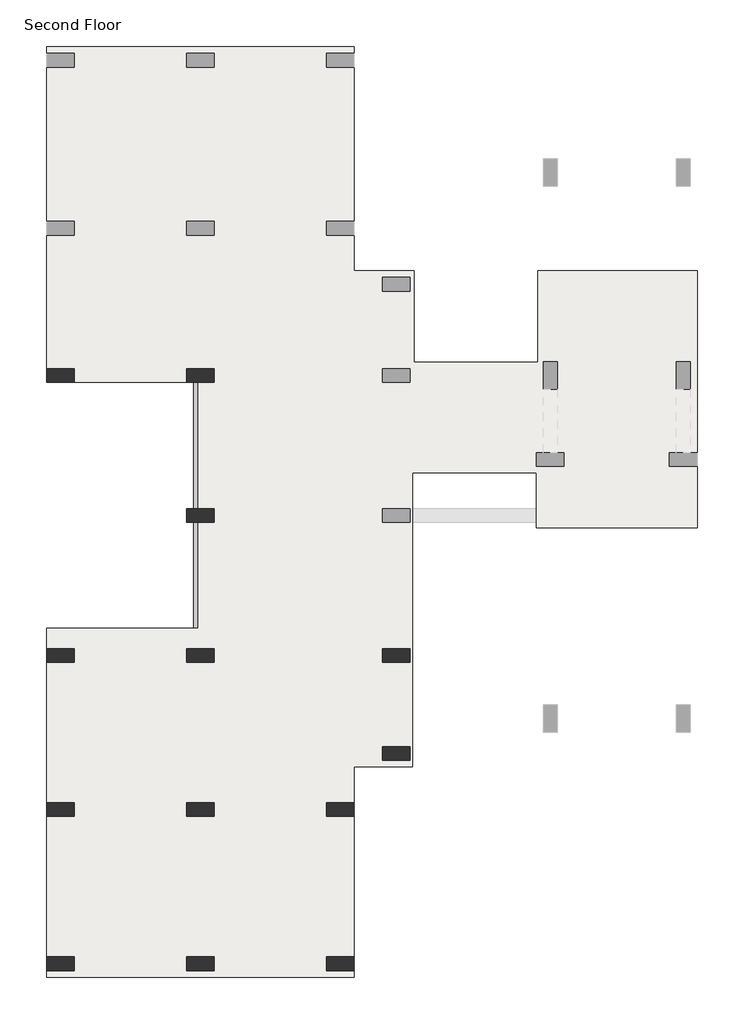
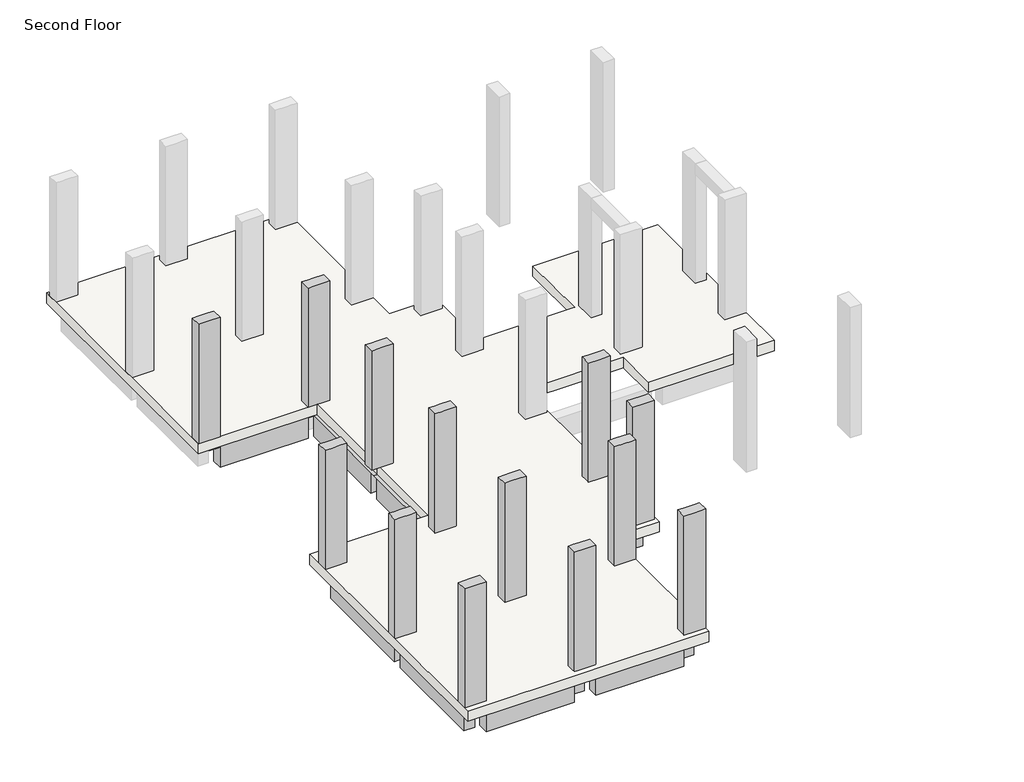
# One storey, part 1 of 2: 17 beams, 13 columns, 1 slab.
"""IFC4 building model written with IfcOpenShell, lengths in millimetres."""

from ifc_helpers import new_model, si_unit, origin, place, context, project, spatial, faceted_brep, element, save

model = new_model("IFC4")

# Units and contexts
model_context = context("Model", 3, world=origin())
ifc_project = project(units=[si_unit("LENGTHUNIT", "METRE", prefix="MILLI")], contexts=[model_context])

# Site, building, storey
site = spatial("IfcSite", under=ifc_project)
building = spatial("IfcBuilding", under=site)
storey = spatial("IfcBuildingStorey", under=building, Name="Second Floor", Elevation=3810.0)

# Beams
placement = place(None, origin())
element("IfcBeam", 1, ObjectType="M_Concrete-Rectangular Beam : 300 x 600mm", at=placement, inside=storey, context=model_context, shape_type="Brep", body=[
    faceted_brep([(-9933.3472303, 7869.016665, 3510.0), (-9933.3472303, 7719.016665, 3510.0), (-9933.3472303, 4821.016665, 3510.0), (-9783.3472303, 4821.016665, 3510.0), (-9783.3472303, 4971.016665, 3510.0), (-9633.3472303, 4971.016665, 3510.0), (-9633.3472303, 7719.016665, 3510.0), (-9633.3472303, 7869.016665, 3510.0), (-9783.3472303, 7869.016665, 3510.0), (-9633.3472303, 7719.016665, 2910.0), (-9633.3472303, 7719.016665, 3505.2), (-9633.3472303, 7869.016665, 3505.2), (-9633.3472303, 4971.016665, 2910.0), (-9933.3472303, 4971.016665, 2910.0), (-9933.3472303, 7719.016665, 2910.0), (-9933.3472303, 7869.016665, 3505.2), (-9933.3472303, 7719.016665, 3505.2), (-9933.3472303, 4971.016665, 3505.2), (-9933.3472303, 4821.016665, 3505.2), (-9783.3472303, 4971.016665, 3505.2), (-9783.3472303, 7869.016665, 3505.2), (-9783.3472303, 4821.016665, 3505.2)], [[[0, 1, 2, 3, 4, 5, 6, 7, 8]], [[9, 10, 11, 7, 6, 5, 12]], [[12, 13, 14, 9]], [[2, 1, 0, 15, 16, 14, 13, 17, 18]], [[5, 4, 19, 17, 13, 12]], [[16, 10, 9, 14]], [[10, 16, 15, 20, 11]], [[17, 19, 21, 18]], [[0, 8, 7, 11, 20, 15]], [[3, 2, 18, 21]], [[4, 3, 21, 19]]]),
])
element("IfcBeam", 2, ObjectType="M_Concrete-Rectangular Beam : 300 x 600mm", at=placement, inside=storey, context=model_context, shape_type="Brep", body=[
    faceted_brep([(-12681.3472303, 8019.016665, 3510.0), (-12681.3472303, 7869.016665, 3510.0), (-12831.3472303, 7869.016665, 3510.0), (-12831.3472303, 7719.016665, 3510.0), (-9933.3472303, 7719.016665, 3510.0), (-9933.3472303, 7869.016665, 3510.0), (-9933.3472303, 8019.016665, 3510.0), (-12531.3472303, 7719.016665, 3505.2), (-12531.3472303, 7719.016665, 2910.0), (-10083.3472303, 7719.016665, 2910.0), (-10083.3472303, 7719.016665, 3505.2), (-9933.3472303, 7719.016665, 3505.2), (-12831.3472303, 7719.016665, 3505.2), (-12531.3472303, 8019.016665, 2910.0), (-10083.3472303, 8019.016665, 2910.0), (-12681.3472303, 8019.016665, 3505.2), (-9933.3472303, 8019.016665, 3505.2), (-10083.3472303, 8019.016665, 3505.2), (-12531.3472303, 8019.016665, 3505.2), (-9933.3472303, 7869.016665, 3505.2), (-12681.3472303, 7869.016665, 3505.2), (-12831.3472303, 7869.016665, 3505.2)], [[[0, 1, 2, 3, 4, 5, 6]], [[7, 8, 9, 10, 11, 4, 3, 12]], [[8, 13, 14, 9]], [[15, 0, 6, 16, 17, 14, 13, 18]], [[6, 5, 4, 11, 19, 16]], [[1, 0, 15, 20]], [[7, 18, 13, 8]], [[18, 7, 12, 21, 20, 15]], [[17, 10, 9, 14]], [[10, 17, 16, 19, 11]], [[3, 2, 21, 12]], [[2, 1, 20, 21]]]),
])
element("IfcBeam", 3, ObjectType="M_Concrete-Rectangular Beam : 300 x 600mm", at=placement, inside=storey, context=model_context, shape_type="Brep", body=[
    faceted_brep([(-9783.3472303, 1623.016665, 3510.0), (-9633.3472303, 1623.016665, 3510.0), (-5666.3472303, 1623.016665, 3510.0), (-5516.3472303, 1623.016665, 3510.0), (-5516.3472303, 1773.016665, 3510.0), (-5666.3472303, 1773.016665, 3510.0), (-5666.3472303, 1923.016665, 3510.0), (-9633.3472303, 1923.016665, 3510.0), (-9783.3472303, 1923.016665, 3510.0), (-9783.3472303, 1773.016665, 3510.0), (-9483.3472303, 1923.016665, 2910.0), (-9483.3472303, 1923.016665, 3505.2), (-9783.3472303, 1923.016665, 3505.2), (-5666.3472303, 1923.016665, 3505.2), (-5816.3472303, 1923.016665, 3505.2), (-5816.3472303, 1923.016665, 2910.0), (-9483.3472303, 1623.016665, 2910.0), (-5816.3472303, 1623.016665, 2910.0), (-9783.3472303, 1623.016665, 3505.2), (-9483.3472303, 1623.016665, 3505.2), (-5816.3472303, 1623.016665, 3505.2), (-5516.3472303, 1623.016665, 3505.2), (-5666.3472303, 1773.016665, 3505.2), (-9783.3472303, 1773.016665, 3505.2), (-5516.3472303, 1773.016665, 3505.2)], [[[0, 1, 2, 3, 4, 5, 6, 7, 8, 9]], [[10, 11, 12, 8, 7, 6, 13, 14, 15]], [[16, 10, 15, 17]], [[3, 2, 1, 0, 18, 19, 16, 17, 20, 21]], [[6, 5, 22, 13]], [[19, 11, 10, 16]], [[11, 19, 18, 23, 12]], [[14, 20, 17, 15]], [[20, 14, 13, 22, 24, 21]], [[0, 9, 8, 12, 23, 18]], [[4, 3, 21, 24]], [[5, 4, 24, 22]]]),
])
element("IfcBeam", 4, ObjectType="M_Concrete-Rectangular Beam : 300 x 600mm", at=placement, inside=storey, context=model_context, shape_type="Brep", body=[
    faceted_brep([(-9933.3472303, 4821.016665, 3510.0), (-9933.3472303, 1923.016665, 3510.0), (-9933.3472303, 1773.016665, 3510.0), (-9783.3472303, 1773.016665, 3510.0), (-9783.3472303, 1923.016665, 3510.0), (-9633.3472303, 1923.016665, 3510.0), (-9633.3472303, 4671.016665, 3510.0), (-9783.3472303, 4671.016665, 3510.0), (-9783.3472303, 4821.016665, 3510.0), (-9633.3472303, 1923.016665, 2910.0), (-9633.3472303, 4671.016665, 2910.0), (-9933.3472303, 1923.016665, 2910.0), (-9933.3472303, 4671.016665, 2910.0), (-9933.3472303, 4821.016665, 3505.2), (-9933.3472303, 4671.016665, 3505.2), (-9933.3472303, 1923.016665, 3505.2), (-9933.3472303, 1773.016665, 3505.2), (-9783.3472303, 4671.016665, 3505.2), (-9783.3472303, 1923.016665, 3505.2), (-9783.3472303, 4821.016665, 3505.2), (-9783.3472303, 1773.016665, 3505.2)], [[[0, 1, 2, 3, 4, 5, 6, 7, 8]], [[6, 5, 9, 10]], [[9, 11, 12, 10]], [[2, 1, 0, 13, 14, 12, 11, 15, 16]], [[7, 6, 10, 12, 14, 17]], [[5, 4, 18, 15, 11, 9]], [[17, 14, 13, 19]], [[15, 18, 20, 16]], [[0, 8, 19, 13]], [[3, 2, 16, 20]], [[8, 7, 17, 19]], [[4, 3, 20, 18]]]),
])
element("IfcBeam", 5, ObjectType="M_Concrete-Rectangular Beam : 300 x 600mm", at=placement, inside=storey, context=model_context, shape_type="Brep", body=[
    faceted_brep([(-5366.3472303, -360.983335, 3510.0), (-5366.3472303, 1773.016665, 3510.0), (-5516.3472303, 1773.016665, 3510.0), (-5516.3472303, 1623.016665, 3510.0), (-5666.3472303, 1623.016665, 3510.0), (-5666.3472303, -210.983335, 3510.0), (-5666.3472303, -360.983335, 3510.0), (-5516.3472303, -360.983335, 3510.0), (-5666.3472303, 1623.016665, 2910.0), (-5666.3472303, -210.983335, 2910.0), (-5666.3472303, -210.983335, 3505.2), (-5666.3472303, -360.983335, 3505.2), (-5366.3472303, 1623.016665, 2910.0), (-5366.3472303, -210.983335, 2910.0), (-5366.3472303, -360.983335, 3505.2), (-5366.3472303, -210.983335, 3505.2), (-5366.3472303, 1623.016665, 3505.2), (-5366.3472303, 1773.016665, 3505.2), (-5516.3472303, 1623.016665, 3505.2), (-5516.3472303, 1773.016665, 3505.2), (-5516.3472303, -360.983335, 3505.2)], [[[0, 1, 2, 3, 4, 5, 6, 7]], [[6, 5, 4, 8, 9, 10, 11]], [[8, 12, 13, 9]], [[1, 0, 14, 15, 13, 12, 16, 17]], [[4, 3, 18, 16, 12, 8]], [[16, 18, 19, 17]], [[15, 10, 9, 13]], [[10, 15, 14, 20, 11]], [[2, 1, 17, 19]], [[0, 7, 6, 11, 20, 14]], [[3, 2, 19, 18]]]),
])
element("IfcBeam", 6, ObjectType="M_Concrete-Rectangular Beam : 300 x 600mm", at=placement, inside=storey, context=model_context, shape_type="Brep", body=[
    faceted_brep([(-6885.3472303, -510.983335, 3510.0), (-6585.3472303, -510.983335, 3510.0), (-5516.3472303, -510.983335, 3510.0), (-5516.3472303, -360.983335, 3510.0), (-5666.3472303, -360.983335, 3510.0), (-5666.3472303, -210.983335, 3510.0), (-6885.3472303, -210.983335, 3510.0), (-6885.3472303, -210.983335, 2910.0), (-5666.3472303, -210.983335, 3505.2), (-5816.3472303, -210.983335, 3505.2), (-5816.3472303, -210.983335, 2910.0), (-6885.3472303, -510.983335, 2910.0), (-5816.3472303, -510.983335, 2910.0), (-6585.3472303, -510.983335, 2910.0), (-5816.3472303, -510.983335, 3505.2), (-5516.3472303, -510.983335, 3505.2), (-5516.3472303, -360.983335, 3505.2), (-5666.3472303, -360.983335, 3505.2)], [[[0, 1, 2, 3, 4, 5, 6]], [[7, 6, 5, 8, 9, 10]], [[11, 7, 10, 12, 13]], [[2, 1, 0, 11, 13, 12, 14, 15]], [[3, 2, 15, 16]], [[0, 6, 7, 11]], [[5, 4, 17, 8]], [[4, 3, 16, 17]], [[9, 14, 12, 10]], [[14, 9, 8, 17, 16, 15]]]),
])
element("IfcBeam", 7, ObjectType="M_Concrete-Rectangular Beam : 300 x 600mm", at=placement, inside=storey, context=model_context, shape_type="Brep", body=[
    faceted_brep([(-6885.3472303, -1579.983335, 3510.0), (-6735.3472303, -1579.983335, 3510.0), (-6585.3472303, -1579.983335, 3510.0), (-6585.3472303, -510.983335, 3510.0), (-6885.3472303, -510.983335, 3510.0), (-6885.3472303, -1429.983335, 3510.0), (-6885.3472303, -510.983335, 2910.0), (-6885.3472303, -1429.983335, 2910.0), (-6885.3472303, -1429.983335, 3505.2), (-6885.3472303, -1579.983335, 3505.2), (-6585.3472303, -510.983335, 2910.0), (-6585.3472303, -1429.983335, 2910.0), (-6585.3472303, -1579.983335, 3505.2), (-6585.3472303, -1429.983335, 3505.2), (-6735.3472303, -1579.983335, 3505.2)], [[[0, 1, 2, 3, 4, 5]], [[0, 5, 4, 6, 7, 8, 9]], [[6, 10, 11, 7]], [[3, 2, 12, 13, 11, 10]], [[2, 1, 0, 9, 14, 12]], [[4, 3, 10, 6]], [[13, 8, 7, 11]], [[8, 13, 12, 14, 9]]]),
])
element("IfcBeam", 8, ObjectType="M_Concrete-Rectangular Beam : 300 x 600mm", at=placement, inside=storey, context=model_context, shape_type="Brep", body=[
    faceted_brep([(-6585.3472303, -4932.983335, 3510.0), (-6585.3472303, -1579.983335, 3510.0), (-6735.3472303, -1579.983335, 3510.0), (-6735.3472303, -1729.983335, 3510.0), (-6885.3472303, -1729.983335, 3510.0), (-6885.3472303, -4782.983335, 3510.0), (-6885.3472303, -4932.983335, 3510.0), (-6735.3472303, -4932.983335, 3510.0), (-6885.3472303, -1729.983335, 2910.0), (-6885.3472303, -4782.983335, 2910.0), (-6885.3472303, -4782.983335, 3505.2), (-6885.3472303, -4932.983335, 3505.2), (-6585.3472303, -1729.983335, 2910.0), (-6585.3472303, -4782.983335, 2910.0), (-6585.3472303, -4932.983335, 3505.2), (-6585.3472303, -4782.983335, 3505.2), (-6585.3472303, -1729.983335, 3505.2), (-6585.3472303, -1579.983335, 3505.2), (-6735.3472303, -1579.983335, 3505.2), (-6735.3472303, -4932.983335, 3505.2), (-6735.3472303, -1729.983335, 3505.2)], [[[0, 1, 2, 3, 4, 5, 6, 7]], [[4, 8, 9, 10, 11, 6, 5]], [[9, 8, 12, 13]], [[1, 0, 14, 15, 13, 12, 16, 17]], [[1, 17, 18, 2]], [[0, 7, 6, 11, 19, 14]], [[4, 3, 20, 16, 12, 8]], [[17, 16, 20, 18]], [[15, 10, 9, 13]], [[10, 15, 14, 19, 11]], [[20, 3, 2, 18]]]),
])
element("IfcBeam", 9, ObjectType="M_Concrete-Rectangular Beam : 300 x 600mm", at=placement, inside=storey, context=model_context, shape_type="Brep", body=[
    faceted_brep([(-9783.3472303, -5082.983335, 3510.0), (-6735.3472303, -5082.983335, 3510.0), (-6735.3472303, -4932.983335, 3510.0), (-6885.3472303, -4932.983335, 3510.0), (-6885.3472303, -4782.983335, 3510.0), (-9633.3472303, -4782.983335, 3510.0), (-9783.3472303, -4782.983335, 3510.0), (-9783.3472303, -4932.983335, 3510.0), (-9483.3472303, -4782.983335, 2910.0), (-9483.3472303, -4782.983335, 3505.2), (-9783.3472303, -4782.983335, 3505.2), (-6885.3472303, -4782.983335, 3505.2), (-7035.3472303, -4782.983335, 3505.2), (-7035.3472303, -4782.983335, 2910.0), (-9483.3472303, -5082.983335, 2910.0), (-7035.3472303, -5082.983335, 2910.0), (-9783.3472303, -5082.983335, 3505.2), (-9483.3472303, -5082.983335, 3505.2), (-7035.3472303, -5082.983335, 3505.2), (-6735.3472303, -5082.983335, 3505.2), (-6885.3472303, -4932.983335, 3505.2), (-9783.3472303, -4932.983335, 3505.2), (-6735.3472303, -4932.983335, 3505.2)], [[[0, 1, 2, 3, 4, 5, 6, 7]], [[8, 9, 10, 6, 5, 4, 11, 12, 13]], [[14, 8, 13, 15]], [[1, 0, 16, 17, 14, 15, 18, 19]], [[4, 3, 20, 11]], [[17, 9, 8, 14]], [[9, 17, 16, 21, 10]], [[12, 18, 15, 13]], [[18, 12, 11, 20, 22, 19]], [[0, 7, 6, 10, 21, 16]], [[2, 1, 19, 22]], [[3, 2, 22, 20]]]),
])
element("IfcBeam", 10, ObjectType="M_Concrete-Rectangular Beam : 300 x 600mm", at=placement, inside=storey, context=model_context, shape_type="Brep", body=[
    faceted_brep([(-9933.3472303, -1579.983335, 3510.0), (-9933.3472303, -1729.983335, 3510.0), (-9933.3472303, -4782.983335, 3510.0), (-9933.3472303, -4932.983335, 3510.0), (-9783.3472303, -4932.983335, 3510.0), (-9783.3472303, -4782.983335, 3510.0), (-9633.3472303, -4782.983335, 3510.0), (-9633.3472303, -1729.983335, 3510.0), (-9633.3472303, -1579.983335, 3510.0), (-9783.3472303, -1579.983335, 3510.0), (-9633.3472303, -4782.983335, 2910.0), (-9633.3472303, -1729.983335, 2910.0), (-9633.3472303, -1729.983335, 3505.2), (-9633.3472303, -1579.983335, 3505.2), (-9933.3472303, -4782.983335, 2910.0), (-9933.3472303, -1729.983335, 2910.0), (-9933.3472303, -1579.983335, 3505.2), (-9933.3472303, -1729.983335, 3505.2), (-9933.3472303, -4782.983335, 3505.2), (-9933.3472303, -4932.983335, 3505.2), (-9783.3472303, -1579.983335, 3505.2), (-9783.3472303, -4932.983335, 3505.2), (-9783.3472303, -4782.983335, 3505.2)], [[[0, 1, 2, 3, 4, 5, 6, 7, 8, 9]], [[8, 7, 6, 10, 11, 12, 13]], [[11, 10, 14, 15]], [[3, 2, 1, 0, 16, 17, 15, 14, 18, 19]], [[0, 9, 8, 13, 20, 16]], [[4, 3, 19, 21]], [[6, 5, 22, 18, 14, 10]], [[5, 4, 21, 22]], [[17, 12, 11, 15]], [[12, 17, 16, 20, 13]], [[18, 22, 21, 19]]]),
])
element("IfcBeam", 11, ObjectType="M_Concrete-Rectangular Beam : 300 x 600mm", at=placement, inside=storey, context=model_context, shape_type="Brep", body=[
    faceted_brep([(-6885.3472303, -1579.983335, 3510.0), (-6885.3472303, -1429.983335, 3510.0), (-9633.3472303, -1429.983335, 3510.0), (-9783.3472303, -1429.983335, 3510.0), (-9783.3472303, -1579.983335, 3510.0), (-9633.3472303, -1579.983335, 3510.0), (-9633.3472303, -1729.983335, 3510.0), (-6885.3472303, -1729.983335, 3510.0), (-6735.3472303, -1729.983335, 3510.0), (-6735.3472303, -1579.983335, 3510.0), (-9633.3472303, -1729.983335, 3505.2), (-9483.3472303, -1729.983335, 3505.2), (-9483.3472303, -1729.983335, 2910.0), (-7035.3472303, -1729.983335, 2910.0), (-7035.3472303, -1729.983335, 3505.2), (-6735.3472303, -1729.983335, 3505.2), (-9483.3472303, -1429.983335, 2910.0), (-7035.3472303, -1429.983335, 2910.0), (-9483.3472303, -1429.983335, 3505.2), (-9783.3472303, -1429.983335, 3505.2), (-6885.3472303, -1429.983335, 3505.2), (-7035.3472303, -1429.983335, 3505.2), (-6885.3472303, -1579.983335, 3505.2), (-9633.3472303, -1579.983335, 3505.2), (-9783.3472303, -1579.983335, 3505.2), (-6735.3472303, -1579.983335, 3505.2)], [[[0, 1, 2, 3, 4, 5, 6, 7, 8, 9]], [[6, 10, 11, 12, 13, 14, 15, 8, 7]], [[12, 16, 17, 13]], [[16, 18, 19, 3, 2, 1, 20, 21, 17]], [[1, 0, 22, 20]], [[6, 5, 23, 10]], [[11, 18, 16, 12]], [[18, 11, 10, 23, 24, 19]], [[21, 14, 13, 17]], [[14, 21, 20, 22, 25, 15]], [[4, 3, 19, 24]], [[9, 8, 15, 25]], [[0, 9, 25, 22]], [[5, 4, 24, 23]]]),
])
element("IfcBeam", 12, ObjectType="M_Concrete-Rectangular Beam : 300 x 600mm", at=placement, inside=storey, context=model_context, shape_type="Brep", body=[
    faceted_brep([(-9933.3472303, 1773.016665, 3510.0), (-9933.3472303, 1623.016665, 3510.0), (-9933.3472303, -1429.983335, 3510.0), (-9933.3472303, -1579.983335, 3510.0), (-9783.3472303, -1579.983335, 3510.0), (-9783.3472303, -1429.983335, 3510.0), (-9633.3472303, -1429.983335, 3510.0), (-9633.3472303, 1623.016665, 3510.0), (-9783.3472303, 1623.016665, 3510.0), (-9783.3472303, 1773.016665, 3510.0), (-9633.3472303, -1429.983335, 2910.0), (-9633.3472303, 1623.016665, 2910.0), (-9933.3472303, -1429.983335, 2910.0), (-9933.3472303, 1623.016665, 2910.0), (-9933.3472303, 1773.016665, 3505.2), (-9933.3472303, 1623.016665, 3505.2), (-9933.3472303, -1429.983335, 3505.2), (-9933.3472303, -1579.983335, 3505.2), (-9783.3472303, 1773.016665, 3505.2), (-9783.3472303, -1579.983335, 3505.2), (-9783.3472303, 1623.016665, 3505.2), (-9783.3472303, -1429.983335, 3505.2)], [[[0, 1, 2, 3, 4, 5, 6, 7, 8, 9]], [[7, 6, 10, 11]], [[11, 10, 12, 13]], [[3, 2, 1, 0, 14, 15, 13, 12, 16, 17]], [[0, 9, 18, 14]], [[4, 3, 17, 19]], [[8, 7, 11, 13, 15, 20]], [[9, 8, 20, 18]], [[6, 5, 21, 16, 12, 10]], [[5, 4, 19, 21]], [[20, 15, 14, 18]], [[16, 21, 19, 17]]]),
])
element("IfcBeam", 13, ObjectType="M_Concrete-Rectangular Beam : 300 x 600mm", at=placement, inside=storey, context=model_context, shape_type="Brep", body=[
    faceted_brep([(-12831.3472303, -5082.983335, 3510.0), (-9783.3472303, -5082.983335, 3510.0), (-9783.3472303, -4932.983335, 3510.0), (-9933.3472303, -4932.983335, 3510.0), (-9933.3472303, -4782.983335, 3510.0), (-12681.3472303, -4782.983335, 3510.0), (-12831.3472303, -4782.983335, 3510.0), (-12831.3472303, -4932.983335, 3510.0), (-12531.3472303, -4782.983335, 2910.0), (-12531.3472303, -4782.983335, 3505.2), (-12831.3472303, -4782.983335, 3505.2), (-9933.3472303, -4782.983335, 3505.2), (-10083.3472303, -4782.983335, 3505.2), (-10083.3472303, -4782.983335, 2910.0), (-12531.3472303, -5082.983335, 2910.0), (-10083.3472303, -5082.983335, 2910.0), (-12831.3472303, -5082.983335, 3505.2), (-12531.3472303, -5082.983335, 3505.2), (-10083.3472303, -5082.983335, 3505.2), (-9783.3472303, -5082.983335, 3505.2), (-9933.3472303, -4932.983335, 3505.2), (-12831.3472303, -4932.983335, 3505.2), (-9783.3472303, -4932.983335, 3505.2)], [[[0, 1, 2, 3, 4, 5, 6, 7]], [[8, 9, 10, 6, 5, 4, 11, 12, 13]], [[14, 8, 13, 15]], [[1, 0, 16, 17, 14, 15, 18, 19]], [[4, 3, 20, 11]], [[17, 9, 8, 14]], [[9, 17, 16, 21, 10]], [[12, 18, 15, 13]], [[18, 12, 11, 20, 22, 19]], [[0, 7, 6, 10, 21, 16]], [[2, 1, 19, 22]], [[3, 2, 22, 20]]]),
])
element("IfcBeam", 14, ObjectType="M_Concrete-Rectangular Beam : 300 x 600mm", at=placement, inside=storey, context=model_context, shape_type="Brep", body=[
    faceted_brep([(-12981.3472303, -1579.983335, 3510.0), (-12981.3472303, -4932.983335, 3510.0), (-12831.3472303, -4932.983335, 3510.0), (-12831.3472303, -4782.983335, 3510.0), (-12681.3472303, -4782.983335, 3510.0), (-12681.3472303, -1729.983335, 3510.0), (-12681.3472303, -1579.983335, 3510.0), (-12831.3472303, -1579.983335, 3510.0), (-12681.3472303, -4782.983335, 2910.0), (-12681.3472303, -1729.983335, 2910.0), (-12681.3472303, -1729.983335, 3505.2), (-12681.3472303, -1579.983335, 3505.2), (-12981.3472303, -4782.983335, 2910.0), (-12981.3472303, -1729.983335, 2910.0), (-12981.3472303, -1579.983335, 3505.2), (-12981.3472303, -1729.983335, 3505.2), (-12981.3472303, -4782.983335, 3505.2), (-12981.3472303, -4932.983335, 3505.2), (-12831.3472303, -1579.983335, 3505.2), (-12831.3472303, -4932.983335, 3505.2), (-12831.3472303, -4782.983335, 3505.2)], [[[0, 1, 2, 3, 4, 5, 6, 7]], [[6, 5, 4, 8, 9, 10, 11]], [[9, 8, 12, 13]], [[1, 0, 14, 15, 13, 12, 16, 17]], [[0, 7, 6, 11, 18, 14]], [[2, 1, 17, 19]], [[4, 3, 20, 16, 12, 8]], [[3, 2, 19, 20]], [[15, 10, 9, 13]], [[10, 15, 14, 18, 11]], [[16, 20, 19, 17]]]),
])
element("IfcBeam", 15, ObjectType="M_Concrete-Rectangular Beam : 300 x 600mm", at=placement, inside=storey, context=model_context, shape_type="Brep", body=[
    faceted_brep([(-12681.3472303, -1579.983335, 3510.0), (-12681.3472303, -1729.983335, 3510.0), (-9933.3472303, -1729.983335, 3510.0), (-9933.3472303, -1579.983335, 3510.0), (-9933.3472303, -1429.983335, 3510.0), (-12681.3472303, -1429.983335, 3510.0), (-12831.3472303, -1429.983335, 3510.0), (-12831.3472303, -1579.983335, 3510.0), (-12681.3472303, -1729.983335, 3505.2), (-12531.3472303, -1729.983335, 3505.2), (-12531.3472303, -1729.983335, 2910.0), (-10083.3472303, -1729.983335, 2910.0), (-10083.3472303, -1729.983335, 3505.2), (-9933.3472303, -1729.983335, 3505.2), (-12531.3472303, -1429.983335, 2910.0), (-10083.3472303, -1429.983335, 2910.0), (-12531.3472303, -1429.983335, 3505.2), (-12831.3472303, -1429.983335, 3505.2), (-9933.3472303, -1429.983335, 3505.2), (-10083.3472303, -1429.983335, 3505.2), (-9933.3472303, -1579.983335, 3505.2), (-12681.3472303, -1579.983335, 3505.2), (-12831.3472303, -1579.983335, 3505.2)], [[[0, 1, 2, 3, 4, 5, 6, 7]], [[1, 8, 9, 10, 11, 12, 13, 2]], [[10, 14, 15, 11]], [[14, 16, 17, 6, 5, 4, 18, 19, 15]], [[4, 3, 2, 13, 20, 18]], [[1, 0, 21, 8]], [[9, 16, 14, 10]], [[16, 9, 8, 21, 22, 17]], [[19, 12, 11, 15]], [[12, 19, 18, 20, 13]], [[7, 6, 17, 22]], [[0, 7, 22, 21]]]),
])
element("IfcBeam", 16, ObjectType="M_Concrete-Rectangular Beam : 300 x 600mm", at=placement, inside=storey, context=model_context, shape_type="Brep", body=[
    faceted_brep([(-12981.3472303, 1773.016665, 3510.0), (-12981.3472303, -1579.983335, 3510.0), (-12831.3472303, -1579.983335, 3510.0), (-12831.3472303, -1429.983335, 3510.0), (-12681.3472303, -1429.983335, 3510.0), (-12681.3472303, 1623.016665, 3510.0), (-12681.3472303, 1773.016665, 3510.0), (-12831.3472303, 1773.016665, 3510.0), (-12681.3472303, -1429.983335, 2910.0), (-12681.3472303, 1623.016665, 2910.0), (-12681.3472303, 1623.016665, 3505.2), (-12681.3472303, 1773.016665, 3505.2), (-12981.3472303, -1429.983335, 2910.0), (-12981.3472303, 1623.016665, 2910.0), (-12981.3472303, 1773.016665, 3505.2), (-12981.3472303, 1623.016665, 3505.2), (-12981.3472303, -1429.983335, 3505.2), (-12981.3472303, -1579.983335, 3505.2), (-12831.3472303, 1773.016665, 3505.2), (-12831.3472303, -1579.983335, 3505.2), (-12831.3472303, -1429.983335, 3505.2)], [[[0, 1, 2, 3, 4, 5, 6, 7]], [[6, 5, 4, 8, 9, 10, 11]], [[9, 8, 12, 13]], [[1, 0, 14, 15, 13, 12, 16, 17]], [[0, 7, 6, 11, 18, 14]], [[2, 1, 17, 19]], [[4, 3, 20, 16, 12, 8]], [[3, 2, 19, 20]], [[15, 10, 9, 13]], [[10, 15, 14, 18, 11]], [[16, 20, 19, 17]]]),
])
element("IfcBeam", 17, ObjectType="M_Concrete-Rectangular Beam : 300 x 600mm", at=placement, inside=storey, context=model_context, shape_type="Brep", body=[
    faceted_brep([(-12681.3472303, 1773.016665, 3510.0), (-12681.3472303, 1623.016665, 3510.0), (-9933.3472303, 1623.016665, 3510.0), (-9933.3472303, 1773.016665, 3510.0), (-9933.3472303, 1923.016665, 3510.0), (-12831.3472303, 1923.016665, 3510.0), (-12831.3472303, 1773.016665, 3510.0), (-12681.3472303, 1623.016665, 3505.2), (-12531.3472303, 1623.016665, 3505.2), (-12531.3472303, 1623.016665, 2910.0), (-10083.3472303, 1623.016665, 2910.0), (-10083.3472303, 1623.016665, 3505.2), (-9933.3472303, 1623.016665, 3505.2), (-12531.3472303, 1923.016665, 2910.0), (-10083.3472303, 1923.016665, 2910.0), (-12531.3472303, 1923.016665, 3505.2), (-12831.3472303, 1923.016665, 3505.2), (-9933.3472303, 1923.016665, 3505.2), (-10083.3472303, 1923.016665, 3505.2), (-9933.3472303, 1773.016665, 3505.2), (-12681.3472303, 1773.016665, 3505.2), (-12831.3472303, 1773.016665, 3505.2)], [[[0, 1, 2, 3, 4, 5, 6]], [[1, 7, 8, 9, 10, 11, 12, 2]], [[9, 13, 14, 10]], [[13, 15, 16, 5, 4, 17, 18, 14]], [[4, 3, 2, 12, 19, 17]], [[1, 0, 20, 7]], [[8, 15, 13, 9]], [[15, 8, 7, 20, 21, 16]], [[18, 11, 10, 14]], [[11, 18, 17, 19, 12]], [[6, 5, 16, 21]], [[0, 6, 21, 20]]]),
])

# Columns
element("IfcColumn", 18, ObjectType="M_Concrete-Rectangular-Column : 300 x 600mm", at=placement, inside=storey, context=model_context, shape_type="Brep", body=[
    faceted_brep([(-13131.3472303, 8019.016665, 3810.0), (-12531.3472303, 8019.016665, 3810.0), (-12531.3472303, 7719.016665, 3810.0), (-13131.3472303, 7719.016665, 3810.0), (-13131.3472303, 7721.016665, 3810.0), (-13131.3472303, 8019.016665, 7315.2), (-12981.3472303, 8019.016665, 7315.2), (-12681.3472303, 8019.016665, 7315.2), (-12531.3472303, 8019.016665, 7315.2), (-12531.3472303, 8019.016665, 6720.0), (-12531.3472303, 7719.016665, 7315.2), (-12531.3472303, 7719.016665, 6720.0), (-12831.3472303, 7719.016665, 7315.2), (-13131.3472303, 7719.016665, 7315.2)], [[[0, 1, 2, 3, 4]], [[5, 6, 7, 8, 9, 1, 0]], [[8, 10, 11, 2, 1, 9]], [[10, 12, 13, 3, 2, 11]], [[13, 5, 0, 4, 3]], [[5, 13, 12, 10, 8, 7, 6]]]),
])
element("IfcColumn", 19, ObjectType="M_Concrete-Rectangular-Column : 300 x 600mm", at=placement, inside=storey, context=model_context, shape_type="Brep", body=[
    faceted_brep([(-10083.3472303, 8019.016665, 3810.0), (-9483.3472303, 8019.016665, 3810.0), (-9483.3472303, 7719.016665, 3810.0), (-10083.3472303, 7719.016665, 3810.0), (-10083.3472303, 8019.016665, 7315.2), (-9933.3472303, 8019.016665, 7315.2), (-9783.3472303, 8019.016665, 7315.2), (-9483.3472303, 8019.016665, 7315.2), (-9483.3472303, 8019.016665, 6720.0), (-10083.3472303, 8019.016665, 6720.0), (-9483.3472303, 7719.016665, 7315.2), (-9483.3472303, 7719.016665, 6720.0), (-9633.3472303, 7719.016665, 7315.2), (-9933.3472303, 7719.016665, 7315.2), (-10083.3472303, 7719.016665, 7315.2), (-10083.3472303, 7719.016665, 6720.0)], [[[0, 1, 2, 3]], [[4, 5, 6, 7, 8, 1, 0, 9]], [[7, 10, 11, 2, 1, 8]], [[10, 12, 13, 14, 15, 3, 2, 11]], [[14, 4, 9, 0, 3, 15]], [[4, 14, 13, 12, 10, 7, 6, 5]]]),
])
element("IfcColumn", 20, ObjectType="M_Concrete-Rectangular-Column : 300 x 600mm", at=placement, inside=storey, context=model_context, shape_type="Brep", body=[
    faceted_brep([(-10083.3472303, 4971.016665, 3810.0), (-9483.3472303, 4971.016665, 3810.0), (-9483.3472303, 4671.016665, 3810.0), (-10083.3472303, 4671.016665, 3810.0), (-10083.3472303, 4971.016665, 7315.2), (-9933.3472303, 4971.016665, 7315.2), (-9783.3472303, 4971.016665, 7315.2), (-9483.3472303, 4971.016665, 7315.2), (-9483.3472303, 4971.016665, 6720.0), (-9483.3472303, 4671.016665, 7315.2), (-9483.3472303, 4671.016665, 6720.0), (-9783.3472303, 4671.016665, 7315.2), (-9933.3472303, 4671.016665, 7315.2), (-10083.3472303, 4671.016665, 7315.2)], [[[0, 1, 2, 3]], [[4, 5, 6, 7, 8, 1, 0]], [[7, 9, 10, 2, 1, 8]], [[9, 11, 12, 13, 3, 2, 10]], [[13, 4, 0, 3]], [[4, 13, 12, 11, 9, 7, 6, 5]]]),
])
element("IfcColumn", 21, ObjectType="M_Concrete-Rectangular-Column : 300 x 600mm", at=placement, inside=storey, context=model_context, shape_type="Brep", body=[
    faceted_brep([(-13131.3472303, 1923.016665, 3810.0), (-12531.3472303, 1923.016665, 3810.0), (-12531.3472303, 1623.016665, 3810.0), (-13131.3472303, 1623.016665, 3810.0), (-13131.3472303, 1923.016665, 7315.2), (-12831.3472303, 1923.016665, 7315.2), (-12531.3472303, 1923.016665, 7315.2), (-12531.3472303, 1923.016665, 6720.0), (-12531.3472303, 1623.016665, 7315.2), (-12531.3472303, 1623.016665, 6720.0), (-12681.3472303, 1623.016665, 7315.2), (-12981.3472303, 1623.016665, 7315.2), (-13131.3472303, 1623.016665, 7315.2)], [[[0, 1, 2, 3]], [[4, 5, 6, 7, 1, 0]], [[6, 8, 9, 2, 1, 7]], [[8, 10, 11, 12, 3, 2, 9]], [[12, 4, 0, 3]], [[4, 12, 11, 10, 8, 6, 5]]]),
])
element("IfcColumn", 22, ObjectType="M_Concrete-Rectangular-Column : 300 x 600mm", at=placement, inside=storey, context=model_context, shape_type="Brep", body=[
    faceted_brep([(-10083.3472303, 1923.016665, 3810.0), (-9483.3472303, 1923.016665, 3810.0), (-9483.3472303, 1623.016665, 3810.0), (-10083.3472303, 1623.016665, 3810.0), (-10083.3472303, 1923.016665, 7315.2), (-9933.3472303, 1923.016665, 7315.2), (-9783.3472303, 1923.016665, 7315.2), (-9483.3472303, 1923.016665, 7315.2), (-9483.3472303, 1923.016665, 6720.0), (-10083.3472303, 1923.016665, 6720.0), (-9483.3472303, 1623.016665, 7315.2), (-9483.3472303, 1623.016665, 6720.0), (-9783.3472303, 1623.016665, 7315.2), (-9933.3472303, 1623.016665, 7315.2), (-10083.3472303, 1623.016665, 7315.2), (-10083.3472303, 1623.016665, 6720.0)], [[[0, 1, 2, 3]], [[4, 5, 6, 7, 8, 1, 0, 9]], [[7, 10, 11, 2, 1, 8]], [[10, 12, 13, 14, 15, 3, 2, 11]], [[14, 4, 9, 0, 3, 15]], [[4, 14, 13, 12, 10, 7, 6, 5]]]),
])
element("IfcColumn", 23, ObjectType="M_Concrete-Rectangular-Column : 300 x 600mm", at=placement, inside=storey, context=model_context, shape_type="Brep", body=[
    faceted_brep([(-5816.3472303, 1923.016665, 3810.0), (-5216.3472303, 1923.016665, 3810.0), (-5216.3472303, 1623.016665, 3810.0), (-5816.3472303, 1623.016665, 3810.0), (-5816.3472303, 1923.016665, 7315.2), (-5666.3472303, 1923.016665, 7315.2), (-5366.3472303, 1923.016665, 7315.2), (-5216.3472303, 1923.016665, 7315.2), (-5816.3472303, 1923.016665, 6720.0), (-5216.3472303, 1623.016665, 7315.2), (-5366.3472303, 1623.016665, 7315.2), (-5516.3472303, 1623.016665, 7315.2), (-5816.3472303, 1623.016665, 7315.2), (-5816.3472303, 1623.016665, 6720.0)], [[[0, 1, 2, 3]], [[4, 5, 6, 7, 1, 0, 8]], [[7, 9, 2, 1]], [[9, 10, 11, 12, 13, 3, 2]], [[12, 4, 8, 0, 3, 13]], [[4, 12, 11, 10, 9, 7, 6, 5]]]),
])
element("IfcColumn", 24, ObjectType="M_Concrete-Rectangular-Column : 300 x 600mm", at=placement, inside=storey, context=model_context, shape_type="Brep", body=[
    faceted_brep([(-5816.3472303, -210.983335, 3810.0), (-5216.3472303, -210.983335, 3810.0), (-5216.3472303, -510.983335, 3810.0), (-5816.3472303, -510.983335, 3810.0), (-5816.3472303, -210.983335, 7315.2), (-5666.3472303, -210.983335, 7315.2), (-5366.3472303, -210.983335, 7315.2), (-5216.3472303, -210.983335, 7315.2), (-5816.3472303, -210.983335, 6720.0), (-5216.3472303, -510.983335, 7315.2), (-5516.3472303, -510.983335, 7315.2), (-5816.3472303, -510.983335, 7315.2), (-5816.3472303, -510.983335, 6720.0)], [[[0, 1, 2, 3]], [[4, 5, 6, 7, 1, 0, 8]], [[7, 9, 2, 1]], [[9, 10, 11, 12, 3, 2]], [[11, 4, 8, 0, 3, 12]], [[4, 11, 10, 9, 7, 6, 5]]]),
])
element("IfcColumn", 25, ObjectType="M_Concrete-Rectangular-Column : 300 x 600mm", at=placement, inside=storey, context=model_context, shape_type="Brep", body=[
    faceted_brep([(-13131.3472303, -1429.983335, 3810.0), (-12531.3472303, -1429.983335, 3810.0), (-12531.3472303, -1729.983335, 3810.0), (-13131.3472303, -1729.983335, 3810.0), (-13131.3472303, -1429.983335, 7315.2), (-12981.3472303, -1429.983335, 7315.2), (-12831.3472303, -1429.983335, 7315.2), (-12531.3472303, -1429.983335, 7315.2), (-12531.3472303, -1429.983335, 6720.0), (-12531.3472303, -1729.983335, 7315.2), (-12531.3472303, -1729.983335, 6720.0), (-12681.3472303, -1729.983335, 7315.2), (-12981.3472303, -1729.983335, 7315.2), (-13131.3472303, -1729.983335, 7315.2)], [[[0, 1, 2, 3]], [[4, 5, 6, 7, 8, 1, 0]], [[7, 9, 10, 2, 1, 8]], [[9, 11, 12, 13, 3, 2, 10]], [[13, 4, 0, 3]], [[4, 13, 12, 11, 9, 7, 6, 5]]]),
])
element("IfcColumn", 26, ObjectType="M_Concrete-Rectangular-Column : 300 x 600mm", at=placement, inside=storey, context=model_context, shape_type="Brep", body=[
    faceted_brep([(-10083.3472303, -1429.983335, 3810.0), (-9483.3472303, -1429.983335, 3810.0), (-9483.3472303, -1729.983335, 3810.0), (-10083.3472303, -1729.983335, 3810.0), (-10083.3472303, -1429.983335, 7315.2), (-9933.3472303, -1429.983335, 7315.2), (-9783.3472303, -1429.983335, 7315.2), (-9483.3472303, -1429.983335, 7315.2), (-9483.3472303, -1429.983335, 6720.0), (-10083.3472303, -1429.983335, 6720.0), (-9483.3472303, -1729.983335, 7315.2), (-9483.3472303, -1729.983335, 6720.0), (-9633.3472303, -1729.983335, 7315.2), (-9933.3472303, -1729.983335, 7315.2), (-10083.3472303, -1729.983335, 7315.2), (-10083.3472303, -1729.983335, 6720.0)], [[[0, 1, 2, 3]], [[4, 5, 6, 7, 8, 1, 0, 9]], [[7, 10, 11, 2, 1, 8]], [[10, 12, 13, 14, 15, 3, 2, 11]], [[14, 4, 9, 0, 3, 15]], [[4, 14, 13, 12, 10, 7, 6, 5]]]),
])
element("IfcColumn", 27, ObjectType="M_Concrete-Rectangular-Column : 300 x 600mm", at=placement, inside=storey, context=model_context, shape_type="Brep", body=[
    faceted_brep([(-7035.3472303, -1429.983335, 3810.0), (-6435.3472303, -1429.983335, 3810.0), (-6435.3472303, -1729.983335, 3810.0), (-7035.3472303, -1729.983335, 3810.0), (-7035.3472303, -1429.983335, 7315.2), (-6885.3472303, -1429.983335, 7315.2), (-6585.3472303, -1429.983335, 7315.2), (-6435.3472303, -1429.983335, 7315.2), (-7035.3472303, -1429.983335, 6720.0), (-6435.3472303, -1729.983335, 7315.2), (-6585.3472303, -1729.983335, 7315.2), (-6735.3472303, -1729.983335, 7315.2), (-7035.3472303, -1729.983335, 7315.2), (-7035.3472303, -1729.983335, 6720.0)], [[[0, 1, 2, 3]], [[4, 5, 6, 7, 1, 0, 8]], [[7, 9, 2, 1]], [[9, 10, 11, 12, 13, 3, 2]], [[12, 4, 8, 0, 3, 13]], [[4, 12, 11, 10, 9, 7, 6, 5]]]),
])
element("IfcColumn", 28, ObjectType="M_Concrete-Rectangular-Column : 300 x 600mm", at=placement, inside=storey, context=model_context, shape_type="Brep", body=[
    faceted_brep([(-13131.3472303, -4782.983335, 3810.0), (-12531.3472303, -4782.983335, 3810.0), (-12531.3472303, -5082.983335, 3810.0), (-13131.3472303, -5082.983335, 3810.0), (-13131.3472303, -4782.983335, 7315.2), (-12981.3472303, -4782.983335, 7315.2), (-12831.3472303, -4782.983335, 7315.2), (-12531.3472303, -4782.983335, 7315.2), (-12531.3472303, -4782.983335, 6720.0), (-12531.3472303, -5082.983335, 7315.2), (-12531.3472303, -5082.983335, 6720.0), (-12831.3472303, -5082.983335, 7315.2), (-13131.3472303, -5082.983335, 7315.2)], [[[0, 1, 2, 3]], [[4, 5, 6, 7, 8, 1, 0]], [[7, 9, 10, 2, 1, 8]], [[9, 11, 12, 3, 2, 10]], [[12, 4, 0, 3]], [[4, 12, 11, 9, 7, 6, 5]]]),
])
element("IfcColumn", 29, ObjectType="M_Concrete-Rectangular-Column : 300 x 600mm", at=placement, inside=storey, context=model_context, shape_type="Brep", body=[
    faceted_brep([(-10083.3472303, -4782.983335, 3810.0), (-9483.3472303, -4782.983335, 3810.0), (-9483.3472303, -5082.983335, 3810.0), (-10083.3472303, -5082.983335, 3810.0), (-10083.3472303, -4782.983335, 7315.2), (-9933.3472303, -4782.983335, 7315.2), (-9783.3472303, -4782.983335, 7315.2), (-9483.3472303, -4782.983335, 7315.2), (-9483.3472303, -4782.983335, 6720.0), (-10083.3472303, -4782.983335, 6720.0), (-9483.3472303, -5082.983335, 7315.2), (-9483.3472303, -5082.983335, 6720.0), (-9783.3472303, -5082.983335, 7315.2), (-10083.3472303, -5082.983335, 7315.2), (-10083.3472303, -5082.983335, 6720.0)], [[[0, 1, 2, 3]], [[4, 5, 6, 7, 8, 1, 0, 9]], [[7, 10, 11, 2, 1, 8]], [[10, 12, 13, 14, 3, 2, 11]], [[13, 4, 9, 0, 3, 14]], [[4, 13, 12, 10, 7, 6, 5]]]),
])
element("IfcColumn", 30, ObjectType="M_Concrete-Rectangular-Column : 300 x 600mm", at=placement, inside=storey, context=model_context, shape_type="Brep", body=[
    faceted_brep([(-7035.3472303, -4782.983335, 3810.0), (-6435.3472303, -4782.983335, 3810.0), (-6435.3472303, -5082.983335, 3810.0), (-7035.3472303, -5082.983335, 3810.0), (-7035.3472303, -4782.983335, 7315.2), (-6885.3472303, -4782.983335, 7315.2), (-6585.3472303, -4782.983335, 7315.2), (-6435.3472303, -4782.983335, 7315.2), (-7035.3472303, -4782.983335, 6720.0), (-6435.3472303, -5082.983335, 7315.2), (-6735.3472303, -5082.983335, 7315.2), (-7035.3472303, -5082.983335, 7315.2), (-7035.3472303, -5082.983335, 6720.0)], [[[0, 1, 2, 3]], [[4, 5, 6, 7, 1, 0, 8]], [[7, 9, 2, 1]], [[9, 10, 11, 12, 3, 2]], [[11, 4, 8, 0, 3, 12]], [[4, 11, 10, 9, 7, 6, 5]]]),
])

# Slab
element("IfcSlab", 31, ObjectType="Generic 300mm", at=placement, inside=storey, context=model_context, shape_type="Brep", body=[
    faceted_brep([(-6435.3472303, 15026.016665, 3510.0), (-6435.3472303, 10150.016665, 3510.0), (-5135.3472303, 10150.016665, 3510.0), (-5135.3472303, 8150.016665, 3510.0), (-2435.3472303, 8150.016665, 3510.0), (-2435.3472303, 10150.016665, 3510.0), (1032.6527697, 10150.016665, 3510.0), (1032.6527697, 6190.016665, 3510.0), (1032.6527697, 5890.016665, 3510.0), (1032.6527697, 4550.016665, 3510.0), (-2467.3472303, 4550.016665, 3510.0), (-2467.3472303, 5750.016665, 3510.0), (-5167.3472303, 5750.016665, 3510.0), (-5167.3472303, -649.983335, 3510.0), (-6435.3472303, -649.983335, 3510.0), (-6435.3472303, -5232.983335, 3510.0), (-13135.3472303, -5232.983335, 3510.0), (-13135.3472303, 2367.016665, 3510.0), (-9835.3472303, 2367.016665, 3510.0), (-9835.3472303, 4821.016665, 3510.0), (-9835.3472303, 7721.016665, 3510.0), (-13131.3472303, 7721.016665, 3510.0), (-13131.3472303, 15026.016665, 3510.0), (-6435.3472303, 15026.016665, 3810.0), (-13131.3472303, 15026.016665, 3810.0), (-13131.3472303, 14876.016665, 3810.0), (-13131.3472303, 14576.016665, 3810.0), (-13131.3472303, 11219.016665, 3810.0), (-13131.3472303, 10919.016665, 3810.0), (-13131.3472303, 8019.016665, 3810.0), (-13131.3472303, 7721.016665, 3810.0), (-9835.3472303, 7721.016665, 3810.0), (-9835.3472303, 4821.016665, 3810.0), (-9835.3472303, 2367.016665, 3810.0), (-13135.3472303, 2367.016665, 3810.0), (-13135.3472303, -5232.983335, 3810.0), (-6435.3472303, -5232.983335, 3810.0), (-6435.3472303, -5082.983335, 3810.0), (-6435.3472303, -4782.983335, 3810.0), (-6435.3472303, -1729.983335, 3810.0), (-6435.3472303, -1429.983335, 3810.0), (-6435.3472303, -649.983335, 3810.0), (-5167.3472303, -649.983335, 3810.0), (-5167.3472303, 5750.016665, 3810.0), (-2467.3472303, 5750.016665, 3810.0), (-2467.3472303, 4550.016665, 3810.0), (1032.6527697, 4550.016665, 3810.0), (1032.6527697, 5890.016665, 3810.0), (1032.6527697, 6190.016665, 3810.0), (1032.6527697, 10150.016665, 3810.0), (-2435.3472303, 10150.016665, 3810.0), (-2435.3472303, 8150.016665, 3810.0), (-5135.3472303, 8150.016665, 3810.0), (-5135.3472303, 10150.016665, 3810.0), (-6435.3472303, 10150.016665, 3810.0), (-6435.3472303, 10919.016665, 3810.0), (-6435.3472303, 11219.016665, 3810.0), (-6435.3472303, 14576.016665, 3810.0), (-6435.3472303, 14876.016665, 3810.0)], [[[0, 1, 2, 3, 4, 5, 6, 7, 8, 9, 10, 11, 12, 13, 14, 15, 16, 17, 18, 19, 20, 21, 22]], [[23, 24, 25, 26, 27, 28, 29, 30, 31, 32, 33, 34, 35, 36, 37, 38, 39, 40, 41, 42, 43, 44, 45, 46, 47, 48, 49, 50, 51, 52, 53, 54, 55, 56, 57, 58]], [[1, 0, 23, 58, 57, 56, 55, 54]], [[2, 1, 54, 53]], [[3, 2, 53, 52]], [[4, 3, 52, 51]], [[5, 4, 51, 50]], [[6, 5, 50, 49]], [[9, 8, 7, 6, 49, 48, 47, 46]], [[10, 9, 46, 45]], [[11, 10, 45, 44]], [[12, 11, 44, 43]], [[13, 12, 43, 42]], [[14, 13, 42, 41]], [[15, 14, 41, 40, 39, 38, 37, 36]], [[16, 15, 36, 35]], [[17, 16, 35, 34]], [[18, 17, 34, 33]], [[19, 18, 33, 32]], [[20, 19, 32, 31]], [[21, 20, 31, 30]], [[22, 21, 30, 29, 28, 27, 26, 25, 24]], [[0, 22, 24, 23]]]),
])

save(model, "model.ifc")
